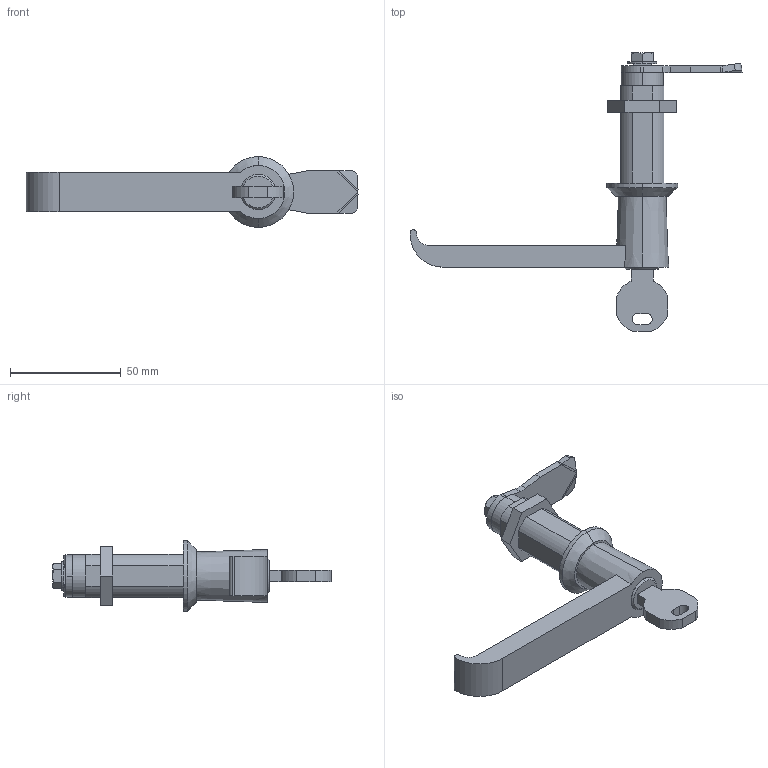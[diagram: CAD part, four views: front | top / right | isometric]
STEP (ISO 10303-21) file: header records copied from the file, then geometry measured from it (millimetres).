
FILE_DESCRIPTION (( 'STEP AP214' ), '1' );
FILE_NAME ('1.4025 Kahva 32 lukolla musta.STEP', '2025-09-11T09:17:09', ( '' ), ( '' ), 'SwSTEP 2.0', 'SolidWorks 2025', '' );
FILE_SCHEMA (( 'AUTOMOTIVE_DESIGN' ));
Length unit declared in the file: millimetre
Products named in the file (1): 1.4025 Kahva 32 lukolla musta
Bounding box: 150.14 x 126 x 32 mm (x, y, z)
Volume: 57925.6 mm3; surface area: 17851.1 mm2
Topology: 2 solids, 2 shells, 151 faces, 364 edges, 223 vertices
Faces by surface type: plane 74, cylinder 50, cone 15, torus 4, sphere 4, bspline 4
Entity records: 4691 total; most frequent: CARTESIAN_POINT 941, DIRECTION 739, ORIENTED_EDGE 720, EDGE_CURVE 360, AXIS2_PLACEMENT_3D 261, VERTEX_POINT 223, LINE 217, VECTOR 217
